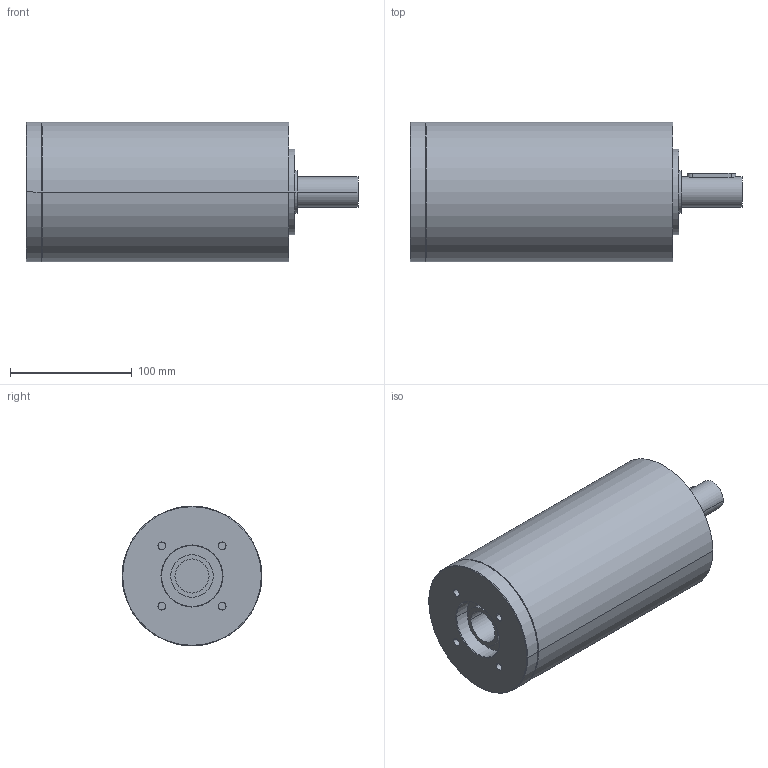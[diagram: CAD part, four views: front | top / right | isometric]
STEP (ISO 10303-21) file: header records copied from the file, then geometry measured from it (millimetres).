
FILE_DESCRIPTION(('CoCreate Modeling STEP Export'),'2;1');
FILE_NAME('GPR125_ig-48-64-80-100-140-196-245-343_25_B14_28_P14.stp','2014-08-26T14:22:54',(''),(''),'CoCreate Modeling STEP processor for AP214 (Solid Model)','CoCreate Modeling 16.00C 25-Feb-2009 (C) Parametric Technology GmbH','');
FILE_SCHEMA(('AUTOMOTIVE_DESIGN { 1 0 10303 214 1 1 1 1 }'));
Length unit declared in the file: millimetre
Products named in the file (2): GPR125_ig-48-64-80-100-140-196-245-343_25_B14_28_P14
Assembly tree (1 placements, depth 2):
  GPR125_ig-48-64-80-100-140-196-245-343_25_B14_28_P14
    GPR125_ig-48-64-80-100-140-196-245-343_25_B14_28_P14
Bounding box: 273 x 115 x 115 mm (x, y, z)
Volume: 2228573.6 mm3; surface area: 116606.5 mm2
Topology: 1 solids, 1 shells, 78 faces, 192 edges, 134 vertices
Faces by surface type: cylinder 44, plane 24, cone 10
Entity records: 1955 total; most frequent: ORIENTED_EDGE 380, CARTESIAN_POINT 360, DIRECTION 256, EDGE_CURVE 190, VERTEX_POINT 134, AXIS2_PLACEMENT_3D 98, EDGE_LOOP 98, FACE_OUTER_BOUND 78
